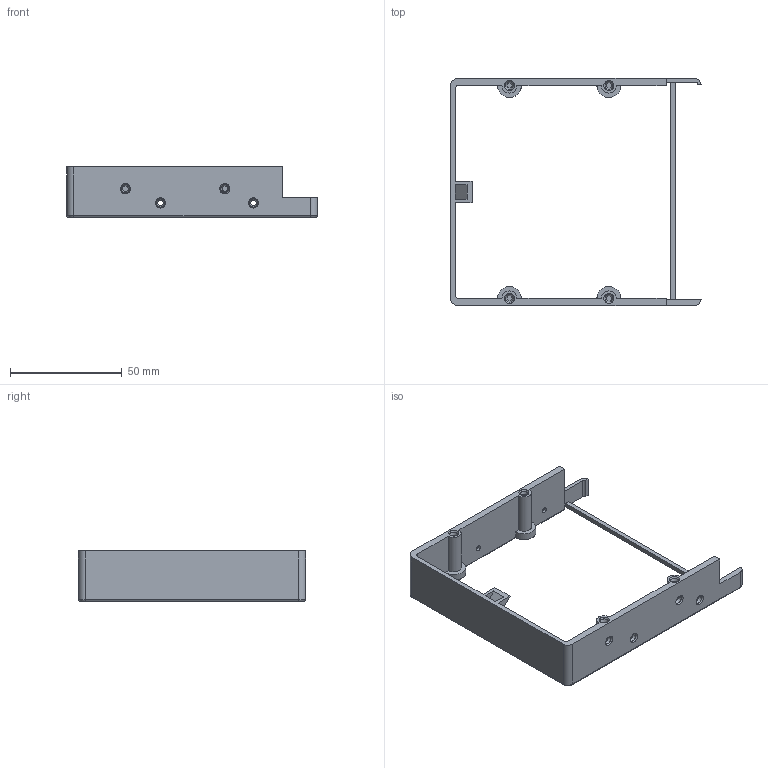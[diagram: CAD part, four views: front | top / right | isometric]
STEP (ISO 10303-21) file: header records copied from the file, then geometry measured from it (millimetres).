
FILE_DESCRIPTION(/* description */ (''),/* implementation_level */ '2;1');
FILE_NAME(/* name */ 'E:/OneDrive/projects/3.5 Hard Drive 50-pin SCSI PCB/123d design/New folder/3.5 Hard Drive Case 50-pin SCSI ED 100 bottom cover.stp',/* time_stamp */ '2022-01-04T23:31:20-05:00',/* author */ (''),/* organization */ (''),/* preprocessor_version */ 'ST-DEVELOPER v15.2',/* originating_system */ 'Autodesk Translator Framework v2.0.0.5431',/* authorisation */ '');
FILE_SCHEMA (('AUTOMOTIVE_DESIGN { 1 0 10303 214 3 1 1 }'));
Length unit declared in the file: centimetre
Products named in the file (1): 3.5 Hard Drive Case 50-pin SCSI ED 100 bottom cover
Bounding box: 112 x 101.6 x 22.5 mm (x, y, z)
Volume: 20485.5 mm3; surface area: 17539.6 mm2
Topology: 1 solids, 1 shells, 128 faces, 310 edges, 196 vertices
Faces by surface type: plane 45, cylinder 41, cone 32, torus 10
Full cylindrical faces by diameter (mm): 2.5 x4, 2.54 x12
Entity records: 3533 total; most frequent: CARTESIAN_POINT 691, DIRECTION 616, ORIENTED_EDGE 500, EDGE_CURVE 250, AXIS2_PLACEMENT_3D 249, EDGE_LOOP 198, VERTEX_POINT 184, ADVANCED_FACE 128
